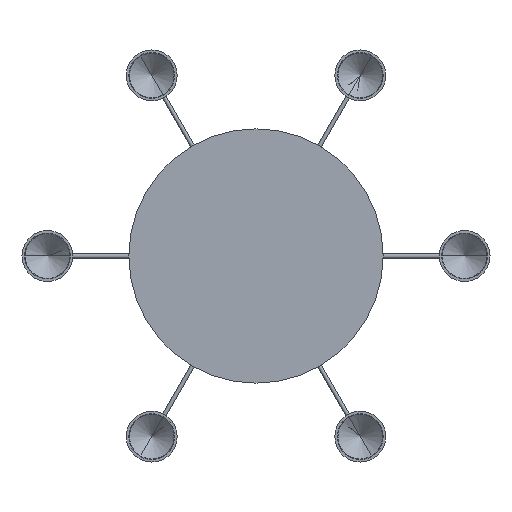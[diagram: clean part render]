
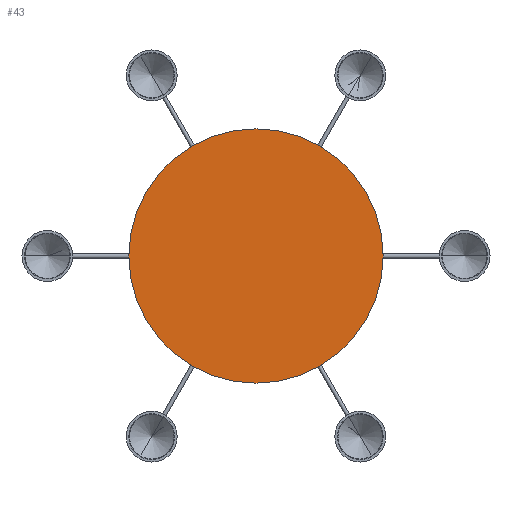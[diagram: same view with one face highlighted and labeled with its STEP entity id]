
A CAD part, front view. The second image highlights one B-rep face of the part: STEP entity #43.
In plain terms, the highlighted planar face has unit normal (0, -1, 0).
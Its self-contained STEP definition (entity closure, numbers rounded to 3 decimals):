
#17 = DIRECTION ( 'NONE',  ( 0., 1., 0. ) ) ;
#43 = ADVANCED_FACE ( 'NONE', ( #2865 ), #2664, .F. ) ;
#54 = AXIS2_PLACEMENT_3D ( 'NONE', #1456, #17, #2679 ) ;
#159 = CIRCLE ( 'NONE', #1933, 125. ) ;
#650 = DIRECTION ( 'NONE',  ( 0., 0., 1. ) ) ;
#667 = DIRECTION ( 'NONE',  ( 0., 1., 0. ) ) ;
#714 = DIRECTION ( 'NONE',  ( 0., 1., 0. ) ) ;
#1135 = ORIENTED_EDGE ( 'NONE', *, *, #2982, .F. ) ;
#1140 = AXIS2_PLACEMENT_3D ( 'NONE', #2636, #667, #1873 ) ;
#1196 = EDGE_CURVE ( 'NONE', #2269, #1511, #159, .T. ) ;
#1290 = CIRCLE ( 'NONE', #1140, 125. ) ;
#1456 = CARTESIAN_POINT ( 'NONE',  ( 0., 0., 0. ) ) ;
#1511 = VERTEX_POINT ( 'NONE', #2052 ) ;
#1553 = EDGE_LOOP ( 'NONE', ( #2398, #1135 ) ) ;
#1873 = DIRECTION ( 'NONE',  ( 0., 0., 1. ) ) ;
#1932 = CARTESIAN_POINT ( 'NONE',  ( 0., 0., -125. ) ) ;
#1933 = AXIS2_PLACEMENT_3D ( 'NONE', #3116, #714, #650 ) ;
#2052 = CARTESIAN_POINT ( 'NONE',  ( 0., 0., 125. ) ) ;
#2269 = VERTEX_POINT ( 'NONE', #1932 ) ;
#2398 = ORIENTED_EDGE ( 'NONE', *, *, #1196, .F. ) ;
#2636 = CARTESIAN_POINT ( 'NONE',  ( 0., 0., 0. ) ) ;
#2664 = PLANE ( 'NONE',  #54 ) ;
#2679 = DIRECTION ( 'NONE',  ( 0., 0., 1. ) ) ;
#2865 = FACE_OUTER_BOUND ( 'NONE', #1553, .T. ) ;
#2982 = EDGE_CURVE ( 'NONE', #1511, #2269, #1290, .T. ) ;
#3116 = CARTESIAN_POINT ( 'NONE',  ( 0., 0., 0. ) ) ;
